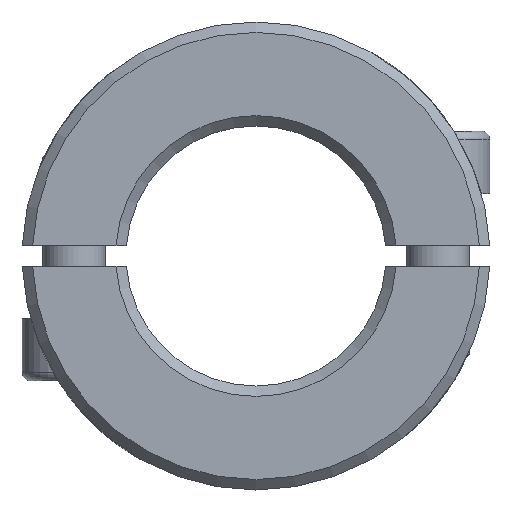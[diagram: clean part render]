
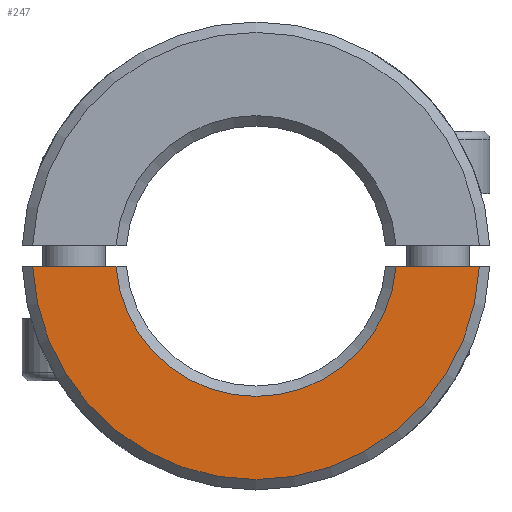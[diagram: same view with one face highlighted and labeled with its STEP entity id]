
A CAD part, front view. The second image highlights one B-rep face of the part: STEP entity #247.
In plain terms, the highlighted planar face has unit normal (0, -1, 0).
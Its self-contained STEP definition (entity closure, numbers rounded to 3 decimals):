
#247 = ADVANCED_FACE( '', ( #489 ), #490, .F. );
#489 = FACE_OUTER_BOUND( '', #825, .T. );
#490 = PLANE( '', #826 );
#825 = EDGE_LOOP( '', ( #1172, #1173, #1174, #1175 ) );
#826 = AXIS2_PLACEMENT_3D( '', #1176, #1177, #1178 );
#1172 = ORIENTED_EDGE( '', *, *, #1818, .F. );
#1173 = ORIENTED_EDGE( '', *, *, #1819, .T. );
#1174 = ORIENTED_EDGE( '', *, *, #1820, .F. );
#1175 = ORIENTED_EDGE( '', *, *, #1806, .T. );
#1176 = CARTESIAN_POINT( '', ( 0., -75., 0. ) );
#1177 = DIRECTION( '', ( 0., 1., 0. ) );
#1178 = DIRECTION( '', ( 0., 0., 1. ) );
#1806 = EDGE_CURVE( '', #2065, #2062, #2066, .F. );
#1818 = EDGE_CURVE( '', #2085, #2062, #2086, .T. );
#1819 = EDGE_CURVE( '', #2085, #2087, #2088, .T. );
#1820 = EDGE_CURVE( '', #2065, #2087, #2089, .T. );
#2062 = VERTEX_POINT( '', #2444 );
#2065 = VERTEX_POINT( '', #2450 );
#2066 = CIRCLE( '', #2451, 21.5 );
#2085 = VERTEX_POINT( '', #2546 );
#2086 = LINE( '', #2547, #2548 );
#2087 = VERTEX_POINT( '', #2549 );
#2088 = CIRCLE( '', #2550, 13.5 );
#2089 = LINE( '', #2551, #2552 );
#2444 = CARTESIAN_POINT( '', ( 21.477, -75., -1. ) );
#2450 = CARTESIAN_POINT( '', ( -21.477, -75., -1. ) );
#2451 = AXIS2_PLACEMENT_3D( '', #3938, #3939, #3940 );
#2546 = CARTESIAN_POINT( '', ( 13.463, -75., -1. ) );
#2547 = CARTESIAN_POINT( '', ( 0., -75., -1. ) );
#2548 = VECTOR( '', #3953, 1000. );
#2549 = CARTESIAN_POINT( '', ( -13.463, -75., -1. ) );
#2550 = AXIS2_PLACEMENT_3D( '', #3954, #3955, #3956 );
#2551 = CARTESIAN_POINT( '', ( 0., -75., -1. ) );
#2552 = VECTOR( '', #3957, 1000. );
#3938 = CARTESIAN_POINT( '', ( 0., -75., 0. ) );
#3939 = DIRECTION( '', ( 0., 1., 0. ) );
#3940 = DIRECTION( '', ( 0., 0., 1. ) );
#3953 = DIRECTION( '', ( 1., 0., 0. ) );
#3954 = CARTESIAN_POINT( '', ( 0., -75., 0. ) );
#3955 = DIRECTION( '', ( 0., 1., 0. ) );
#3956 = DIRECTION( '', ( 0., 0., 1. ) );
#3957 = DIRECTION( '', ( 1., 0., 0. ) );
